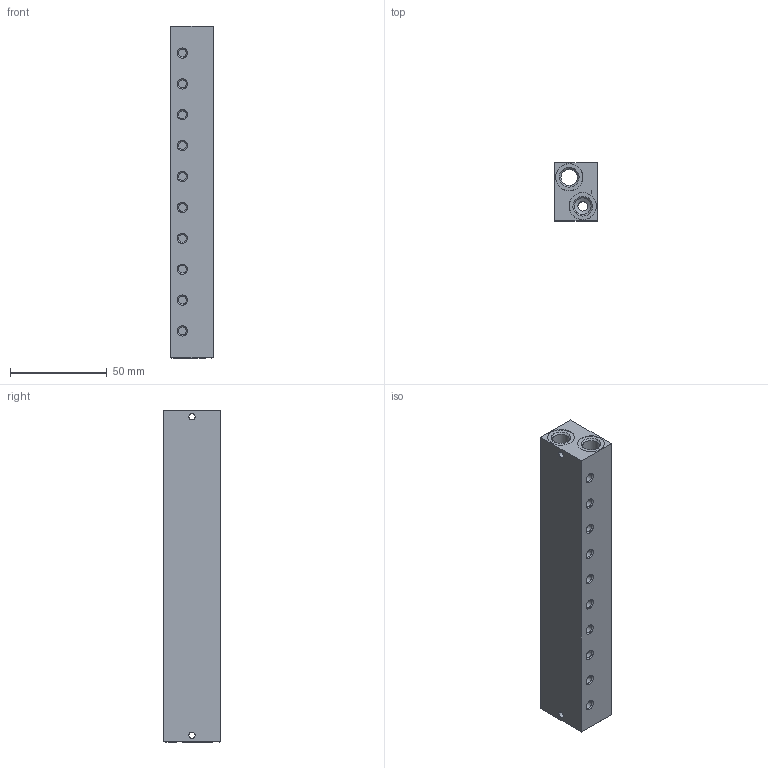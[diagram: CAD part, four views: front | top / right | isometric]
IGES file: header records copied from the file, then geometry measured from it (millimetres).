
Global section: file name: 355_10; native system: Autodesk Inventor 2014; preprocessor: unknown; author: R.Rivoltella; organization: Pneumax S.p.A.; date: 20161003.105153; units: millimetre
Bounding box: 22 x 30 x 172 mm (x, y, z)
Volume: 97356.7 mm3; surface area: 28687.1 mm2
Topology: 1 solids, 1 shells, 120 faces, 360 edges, 258 vertices
Faces by surface type: bspline 120
